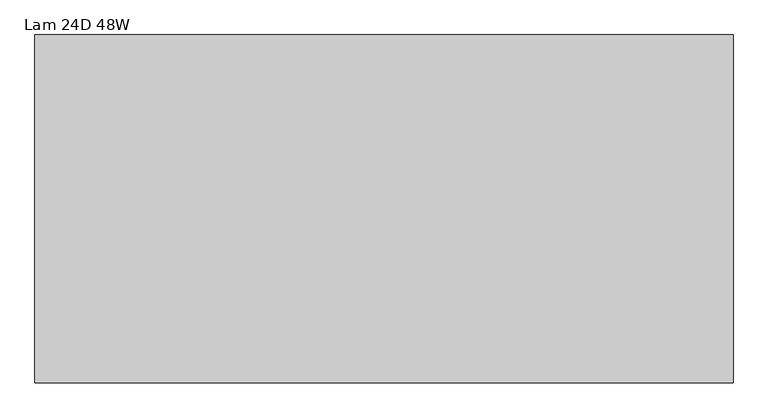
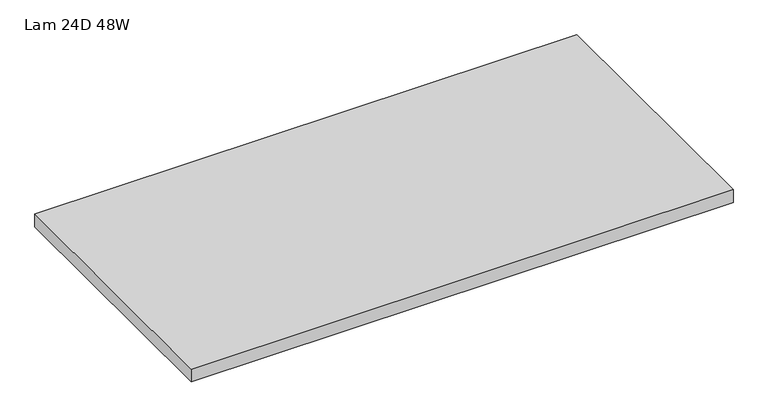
"""IFC4 building model written with IfcOpenShell, lengths in millimetres: furniture geometry, HermanMiller_CoStruc_C4700_RectangularWorkTableSurface : Lam 24D 48W."""

from ifc_helpers import new_model, si_unit, frame, origin, place, context, project, spatial, polyline, outline, extrude, source, transform, mapped, element, save


def lam_24d_48w_f610a9d3(model_context):
    return source(origin(), model_context, "Body", "SweptSolid", [
        extrude(outline(polyline([(1219.1999999, -3.0467299), (1219.1999999, -609.6), (3.1750001, -609.6), (3.1750001, -3.0467299), (1219.1999999, -3.0467299)])), frame((0.0, 0.0, 884.428), z_axis=(0.0, 0.0, 1.0), x_axis=(1.0, 0.0, 0.0)), (0.0, 0.0, 1.0), 29.972),
    ])


if __name__ == "__main__":
    model = new_model("IFC4")
    model_context = context("Model", 3, world=origin())
    ifc_project = project(units=[si_unit("LENGTHUNIT", "METRE", prefix="MILLI")], contexts=[model_context])
    site = spatial("IfcSite", under=ifc_project)
    building = spatial("IfcBuilding", under=site)
    placement = place(None, origin())
    lam_24d_48w_shape = lam_24d_48w_f610a9d3(model_context)
    element("IfcFurniture", 1, ObjectType="HermanMiller_CoStruc_C4700_RectangularWorkTableSurface : Lam 24D 48W", at=placement, inside=building, context=model_context, shape_type="MappedRepresentation", body=[
        mapped(lam_24d_48w_shape, transform((0.0, 0.0, 0.0), x_axis=(1.0, 0.0, 0.0), y_axis=(0.0, 1.0, 0.0), z_axis=(0.0, 0.0, 1.0))),
    ])
    save(model, "model.ifc")
